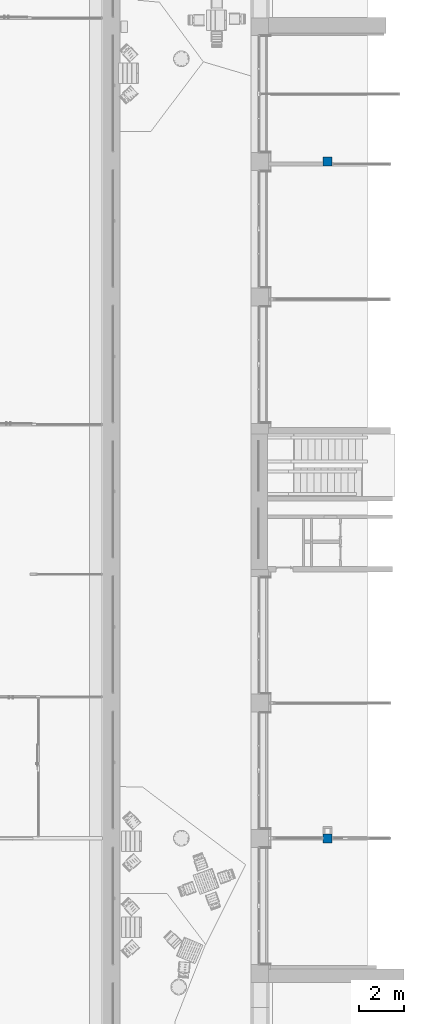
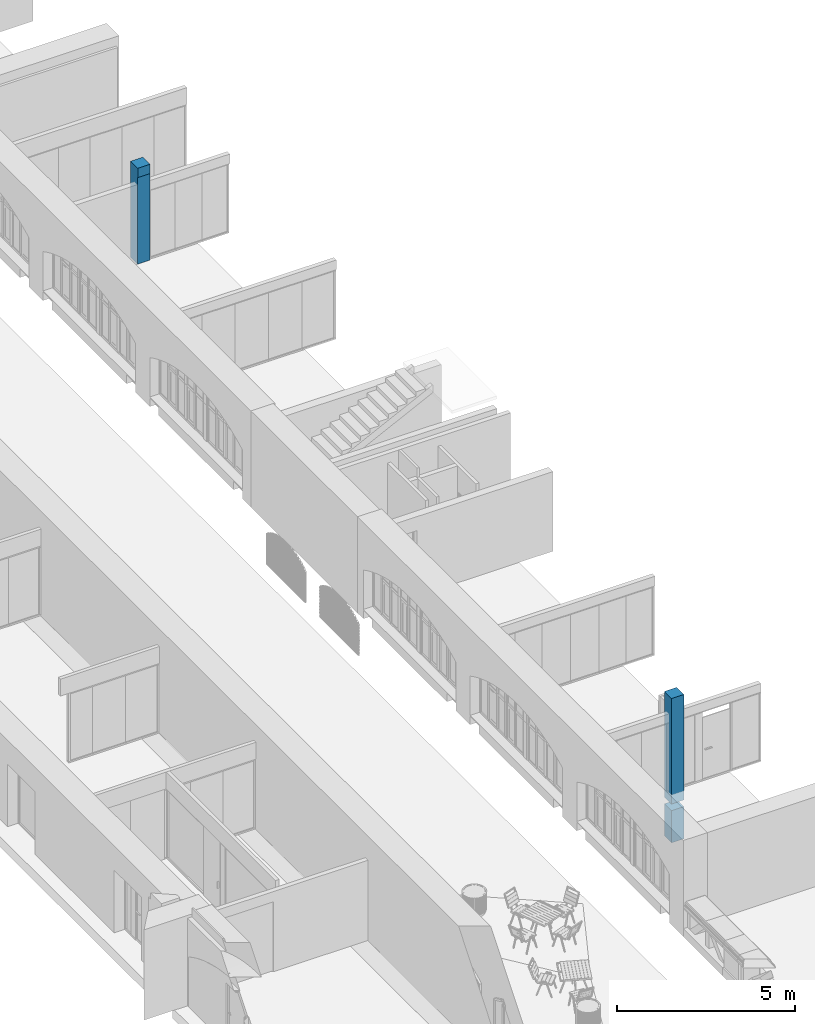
# One storey, part 1 of 88: 2 columns.
"""IFC2X3 building model written with IfcOpenShell, lengths in millimetres."""

from ifc_helpers import new_model, entity, si_unit, converted_unit, derived_unit, direction, frame, frame_2d, origin, place, context, subcontext, project, spatial, polyline, rectangle, outline, extrude, source, transform, mapped, material, type_object, type_shapes, element, save


model = new_model("IFC2X3")

# Units and contexts
model_context = context("Model", 3, precision=0.01, world=origin(), true_north=direction((6.123031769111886e-17, 1.0)))
body_context = subcontext(model_context, "Body", "Model", "MODEL_VIEW")
ifc_project = project(units=[si_unit("LENGTHUNIT", "METRE", prefix="MILLI"), si_unit("AREAUNIT", "SQUARE_METRE"), si_unit("VOLUMEUNIT", "CUBIC_METRE"), converted_unit("PLANEANGLEUNIT", "DEGREE", entity("IfcPlaneAngleMeasure", 0.017453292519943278), si_unit("PLANEANGLEUNIT", "RADIAN"), dimensions=[0, 0, 0, 0, 0, 0, 0]), si_unit("MASSUNIT", "GRAM", prefix="KILO"), derived_unit("MASSDENSITYUNIT", [(si_unit("MASSUNIT", "GRAM", prefix="KILO"), 1), (si_unit("LENGTHUNIT", "METRE"), -3)]), derived_unit("IONCONCENTRATIONUNIT", [(si_unit("MASSUNIT", "GRAM", prefix="KILO"), 1), (si_unit("LENGTHUNIT", "METRE"), -3)]), derived_unit("MOMENTOFINERTIAUNIT", [(si_unit("LENGTHUNIT", "METRE"), 4)]), si_unit("TIMEUNIT", "SECOND"), si_unit("FREQUENCYUNIT", "HERTZ"), si_unit("THERMODYNAMICTEMPERATUREUNIT", "DEGREE_CELSIUS"), derived_unit("THERMALTRANSMITTANCEUNIT", [(si_unit("MASSUNIT", "GRAM", prefix="KILO"), 1), (si_unit("THERMODYNAMICTEMPERATUREUNIT", "KELVIN"), -1), (si_unit("TIMEUNIT", "SECOND"), -3)]), derived_unit("THERMALCONDUCTANCEUNIT", [(si_unit("MASSUNIT", "GRAM", prefix="KILO"), 1), (si_unit("THERMODYNAMICTEMPERATUREUNIT", "KELVIN"), -1), (si_unit("TIMEUNIT", "SECOND"), -3), (si_unit("LENGTHUNIT", "METRE"), 1)]), derived_unit("VOLUMETRICFLOWRATEUNIT", [(si_unit("LENGTHUNIT", "METRE", prefix="DECI"), 3), (si_unit("TIMEUNIT", "SECOND"), -1)]), derived_unit("MASSFLOWRATEUNIT", [(si_unit("MASSUNIT", "GRAM", prefix="KILO"), 1), (si_unit("TIMEUNIT", "SECOND"), -1)]), derived_unit("ROTATIONALFREQUENCYUNIT", [(si_unit("TIMEUNIT", "SECOND"), -1)]), si_unit("ELECTRICCURRENTUNIT", "AMPERE"), si_unit("ELECTRICVOLTAGEUNIT", "VOLT"), si_unit("POWERUNIT", "WATT"), si_unit("FORCEUNIT", "NEWTON", prefix="KILO"), si_unit("ILLUMINANCEUNIT", "LUX"), si_unit("LUMINOUSFLUXUNIT", "LUMEN"), si_unit("LUMINOUSINTENSITYUNIT", "CANDELA"), si_unit("ENERGYUNIT", "JOULE"), derived_unit("USERDEFINED", [(si_unit("MASSUNIT", "GRAM", prefix="KILO"), -1), (si_unit("LENGTHUNIT", "METRE"), -2), (si_unit("TIMEUNIT", "SECOND"), 3), (si_unit("LUMINOUSFLUXUNIT", "LUMEN"), 1)]), derived_unit("USERDEFINED", [(si_unit("MASSUNIT", "GRAM", prefix="KILO"), 1), (si_unit("TIMEUNIT", "SECOND"), -3), (si_unit("LENGTHUNIT", "METRE"), 3), (si_unit("ELECTRICCURRENTUNIT", "AMPERE"), -2)]), derived_unit("SOUNDPOWERUNIT", [(si_unit("MASSUNIT", "GRAM", prefix="KILO"), 1), (si_unit("TIMEUNIT", "SECOND"), -3), (si_unit("LENGTHUNIT", "METRE"), 2)]), derived_unit("SOUNDPRESSUREUNIT", [(si_unit("MASSUNIT", "GRAM", prefix="KILO"), 1), (si_unit("LENGTHUNIT", "METRE"), -1), (si_unit("TIMEUNIT", "SECOND"), -2)]), derived_unit("LINEARVELOCITYUNIT", [(si_unit("LENGTHUNIT", "METRE"), 1), (si_unit("TIMEUNIT", "SECOND"), -1)]), si_unit("PRESSUREUNIT", "PASCAL"), derived_unit("USERDEFINED", [(si_unit("MASSUNIT", "GRAM", prefix="KILO"), 1), (si_unit("LENGTHUNIT", "METRE"), -2), (si_unit("TIMEUNIT", "SECOND"), -2)]), derived_unit("LINEARFORCEUNIT", [(si_unit("MASSUNIT", "GRAM", prefix="KILO"), 1), (si_unit("TIMEUNIT", "SECOND"), -2)]), derived_unit("PLANARFORCEUNIT", [(si_unit("MASSUNIT", "GRAM", prefix="KILO"), 1), (si_unit("LENGTHUNIT", "METRE"), -1), (si_unit("TIMEUNIT", "SECOND"), -2)]), derived_unit("SPECIFICHEATCAPACITYUNIT", [(si_unit("THERMODYNAMICTEMPERATUREUNIT", "KELVIN"), -1), (si_unit("LENGTHUNIT", "METRE"), 2), (si_unit("TIMEUNIT", "SECOND"), -2)]), derived_unit("HEATFLUXDENSITYUNIT", [(si_unit("MASSUNIT", "GRAM", prefix="KILO"), 1), (si_unit("TIMEUNIT", "SECOND"), -3)]), derived_unit("HEATINGVALUEUNIT", [(si_unit("LENGTHUNIT", "METRE"), 2), (si_unit("TIMEUNIT", "SECOND"), -2)]), derived_unit("VAPORPERMEABILITYUNIT", [(si_unit("LENGTHUNIT", "METRE"), -1), (si_unit("TIMEUNIT", "SECOND"), 1)]), derived_unit("DYNAMICVISCOSITYUNIT", [(si_unit("MASSUNIT", "GRAM", prefix="KILO"), 1), (si_unit("TIMEUNIT", "SECOND"), -1), (si_unit("LENGTHUNIT", "METRE"), -1)]), derived_unit("THERMALEXPANSIONCOEFFICIENTUNIT", [(si_unit("THERMODYNAMICTEMPERATUREUNIT", "KELVIN"), -1)]), derived_unit("MODULUSOFELASTICITYUNIT", [(si_unit("MASSUNIT", "GRAM", prefix="KILO"), 1), (si_unit("LENGTHUNIT", "METRE"), -1), (si_unit("TIMEUNIT", "SECOND"), -2)]), derived_unit("ISOTHERMALMOISTURECAPACITYUNIT", [(si_unit("MASSUNIT", "GRAM", prefix="KILO"), -1), (si_unit("LENGTHUNIT", "METRE"), 3)]), derived_unit("MOISTUREDIFFUSIVITYUNIT", [(si_unit("TIMEUNIT", "SECOND"), -1), (si_unit("LENGTHUNIT", "METRE"), 2)]), derived_unit("MASSPERLENGTHUNIT", [(si_unit("MASSUNIT", "GRAM", prefix="KILO"), 1), (si_unit("LENGTHUNIT", "METRE"), -1)]), derived_unit("THERMALRESISTANCEUNIT", [(si_unit("MASSUNIT", "GRAM", prefix="KILO"), -1), (si_unit("TIMEUNIT", "SECOND"), 3), (si_unit("THERMODYNAMICTEMPERATUREUNIT", "KELVIN"), 1)]), derived_unit("ACCELERATIONUNIT", [(si_unit("LENGTHUNIT", "METRE"), 1), (si_unit("TIMEUNIT", "SECOND"), -2)]), derived_unit("ANGULARVELOCITYUNIT", [(si_unit("TIMEUNIT", "SECOND"), -1), (si_unit("PLANEANGLEUNIT", "RADIAN"), 1)]), derived_unit("LINEARSTIFFNESSUNIT", [(si_unit("MASSUNIT", "GRAM", prefix="KILO"), 1), (si_unit("TIMEUNIT", "SECOND"), -2)]), derived_unit("WARPINGCONSTANTUNIT", [(si_unit("LENGTHUNIT", "METRE"), 6)]), derived_unit("LINEARMOMENTUNIT", [(si_unit("MASSUNIT", "GRAM", prefix="KILO"), 1), (si_unit("LENGTHUNIT", "METRE"), 1), (si_unit("TIMEUNIT", "SECOND"), -2)]), derived_unit("TORQUEUNIT", [(si_unit("MASSUNIT", "GRAM", prefix="KILO"), 1), (si_unit("LENGTHUNIT", "METRE"), 2), (si_unit("TIMEUNIT", "SECOND"), -2)])], contexts=[model_context])

# Site, building, storey
site_placement = place(None, origin())
site = spatial("IfcSite", under=ifc_project, at=site_placement, Name="Default", CompositionType="ELEMENT")
building_placement = place(site_placement, origin())
building = spatial("IfcBuilding", under=site, at=building_placement, Name="Eesti Rahvusraamatukogu hoone renoveerimise projekteerimistööd", CompositionType="ELEMENT")
storey_placement = place(building_placement, origin())
storey = spatial("IfcBuildingStorey", under=building, at=storey_placement, Name="1. korrus", CompositionType="ELEMENT", Elevation=0.0)

# Columns
ifc_material = material(Name="ol. olev materjal")
column_type_1 = type_object("IfcColumnType", Name="Post, nelinurkne:ol. olev - 400x 400mm", PredefinedType="COLUMN", material=ifc_material)
shared_shape_1 = source(origin(), body_context, "Body", "SweptSolid", [
    extrude(outline(polyline([(-1388.7500000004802, -128.7500000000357), (-1068.7500000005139, -128.7500000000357), (-1068.7500000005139, -113.74999999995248), (-818.750000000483, -113.74999999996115), (1911.250000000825, -113.74999999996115), (1911.250000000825, 56.25000000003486), (1911.250000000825, 271.2499999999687), (-1388.7500000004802, 271.2499999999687), (-1388.7500000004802, -128.7500000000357)])), frame((-33590.0, 42318.74999999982, 3561.2500000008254), z_axis=(1.0, 0.0, 0.0), x_axis=(0.0, 0.0, -1.0)), (0.0, 0.0, 1.0), 400.0),
])
type_shapes(column_type_1, [shared_shape_1])
column_1_placement = place(storey_placement, origin())
element("IfcColumn", 1, at=column_1_placement, inside=storey, type_object=column_type_1, material=ifc_material, Name="Post, nelinurkne:ol. olev - 400x 400mm", ObjectType="Post, nelinurkne:ol. olev - 400x 400mm", context=body_context, shape_type="MappedRepresentation", body=[
    mapped(shared_shape_1, transform((0.0, 0.0, 0.0), scale=1.0)),
])
column_type_2 = type_object("IfcColumnType", Name="Post, nelinurkne:ol. olev - 400x 400mm", PredefinedType="COLUMN", material=ifc_material)
shared_shape_2 = source(origin(), body_context, "Body", "SweptSolid", [
    extrude(rectangle(XDim=400.0, YDim=400.0, at=frame_2d((0.0, -2.1742607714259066e-12), x_axis=(1.0, 0.0))), frame((-33390.0, 12390.0, 1330.0), z_axis=(0.0, 0.0, 1.0), x_axis=(0.0, -1.0, 0.0)), (0.0, 0.0, 1.0), 3620.000000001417),
    extrude(rectangle(XDim=400.0, YDim=400.0, at=frame_2d((2.1742607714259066e-12, 0.0), x_axis=(1.0, 0.0))), frame((-33390.0, 12390.0, 0.0), z_axis=(0.0, 0.0, 1.0), x_axis=(-1.0, 0.0, 0.0)), (0.0, 0.0, 1.0), 1099.9999999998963),
])
type_shapes(column_type_2, [shared_shape_2])
column_2_placement = place(storey_placement, origin())
element("IfcColumn", 2, at=column_2_placement, inside=storey, type_object=column_type_2, material=ifc_material, Name="Post, nelinurkne:ol. olev - 400x 400mm", ObjectType="Post, nelinurkne:ol. olev - 400x 400mm", context=body_context, shape_type="MappedRepresentation", body=[
    mapped(shared_shape_2, transform((0.0, 0.0, 0.0), scale=1.0)),
])

save(model, "model.ifc")
